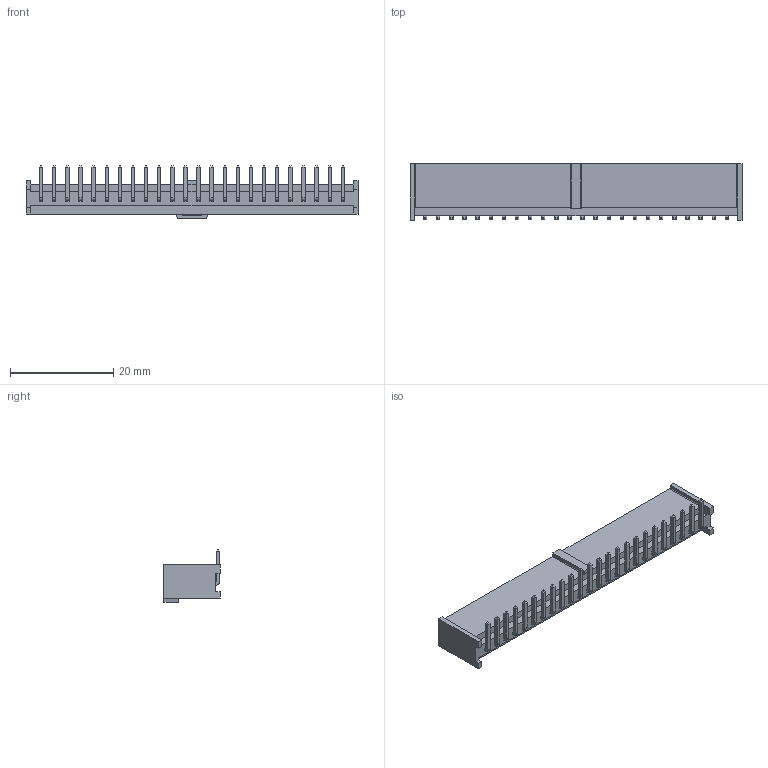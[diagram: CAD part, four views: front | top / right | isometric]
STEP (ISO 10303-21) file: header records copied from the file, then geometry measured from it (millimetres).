
FILE_DESCRIPTION((''),'2;1');
FILE_NAME('901362424','2018-10-31T',('gga'),(''),'PRO/ENGINEER BY PARAMETRIC TECHNOLOGY CORPORATION, 2016010','PRO/ENGINEER BY PARAMETRIC TECHNOLOGY CORPORATION, 2016010','');
FILE_SCHEMA(('CONFIG_CONTROL_DESIGN'));
Length unit declared in the file: millimetre
Products named in the file (1): 901362424
Bounding box: 64.31 x 10.9 x 10.11 mm (x, y, z)
Volume: 1716.2 mm3; surface area: 4011.4 mm2
Topology: 1 solids, 1 shells, 563 faces, 1388 edges, 874 vertices
Faces by surface type: plane 535, cylinder 28
Entity records: 16105 total; most frequent: CARTESIAN_POINT 2778, ORIENTED_EDGE 2680, DIRECTION 2620, EDGE_CURVE 1340, VECTOR 1284, LINE 1284, VERTEX_POINT 826, AXIS2_PLACEMENT_3D 668
